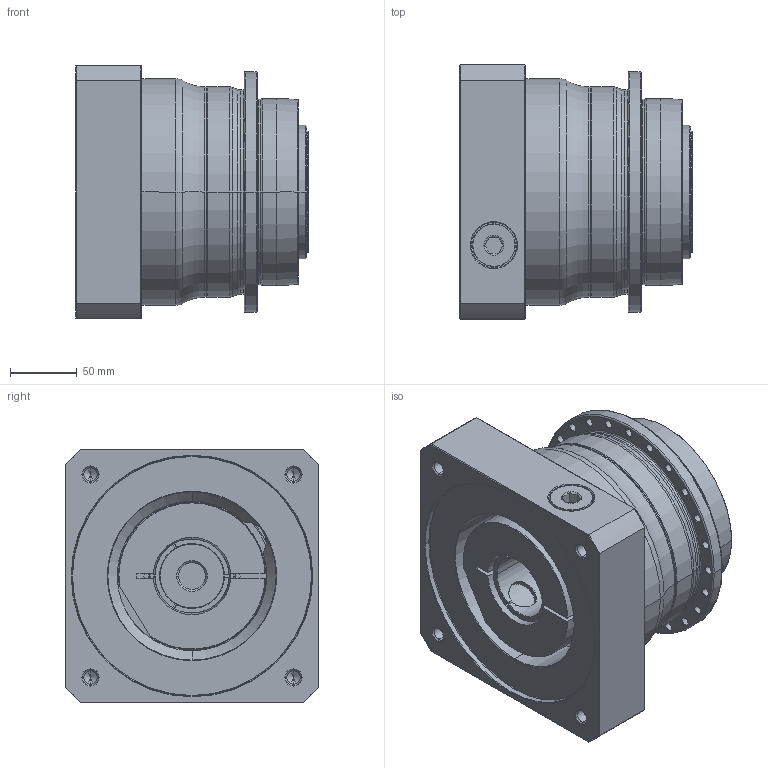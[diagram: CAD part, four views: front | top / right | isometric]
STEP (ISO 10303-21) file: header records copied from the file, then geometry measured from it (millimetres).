
FILE_DESCRIPTION((''),'2;1');
FILE_NAME('AP140_1ST_48-P0409B10201_ASM','2018-05-25T',('d01226'),(''),'PRO/ENGINEER BY PARAMETRIC TECHNOLOGY CORPORATION, 2008410','PRO/ENGINEER BY PARAMETRIC TECHNOLOGY CORPORATION, 2008410','');
FILE_SCHEMA(('CONFIG_CONTROL_DESIGN'));
Length unit declared in the file: millimetre
Products named in the file (9): P0278501003; P0359501103; P1318510601; P0503B00016; P0912556001; P1211500001; P0409B10201; 21711426021; AP140_1ST_48-P0409B10201_ASM
Assembly tree (8 placements, depth 2):
  AP140_1ST_48-P0409B10201_ASM
    P0278501003
    P0359501103
    P1318510601
    P0503B00016
    P0912556001
    P1211500001
    P0409B10201
    21711426021
Bounding box: 174 x 190 x 190 mm (x, y, z)
Volume: 3332682.1 mm3; surface area: 422286.3 mm2
Topology: 9 solids, 34 shells, 636 faces, 1483 edges, 916 vertices
Faces by surface type: cylinder 271, cone 176, plane 107, torus 68, bspline 14
Entity records: 23478 total; most frequent: CARTESIAN_POINT 8144, DIRECTION 3521, ORIENTED_EDGE 2848, AXIS2_PLACEMENT_3D 1505, EDGE_CURVE 1475, VERTEX_POINT 916, CIRCLE 856, EDGE_LOOP 791
